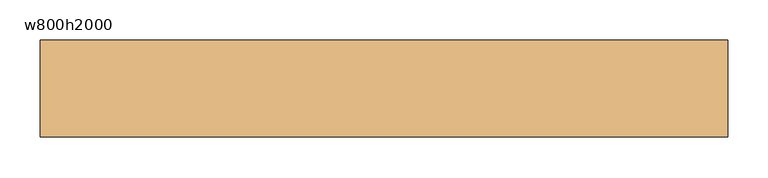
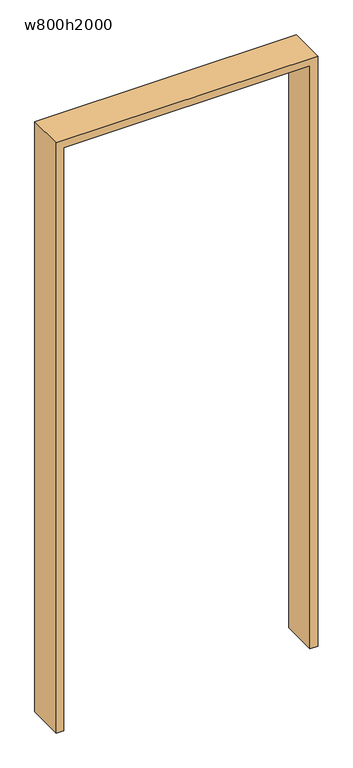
"""IFC4 building model written with IfcOpenShell, lengths in millimetres: door geometry, 開口枠あり : w800h2000."""

from ifc_helpers import new_model, si_unit, frame, origin, place, context, project, spatial, polyline, outline, extrude, source, transform, mapped, element, save


def w800h2000_d76b1b72(model_context):
    return source(origin(), model_context, "Body", "SweptSolid", [
        extrude(outline(polyline([(0.0, -425.0), (0.0, -400.0), (2000.0, -400.0), (2000.0, 400.0), (0.0, 400.0), (0.0, 425.0), (2025.0, 425.0), (2025.0, -425.0), (0.0, -425.0)])), frame((0.0, -60.0, 0.0), z_axis=(0.0, 1.0, 0.0), x_axis=(0.0, 0.0, 1.0)), (0.0, 0.0, 1.0), 120.0),
    ])


if __name__ == "__main__":
    model = new_model("IFC4")
    model_context = context("Model", 3, world=origin())
    ifc_project = project(units=[si_unit("LENGTHUNIT", "METRE", prefix="MILLI")], contexts=[model_context])
    site = spatial("IfcSite", under=ifc_project)
    building = spatial("IfcBuilding", under=site)
    placement = place(None, origin())
    w800h2000_shape = w800h2000_d76b1b72(model_context)
    element("IfcDoor", 1, ObjectType="開口枠あり : w800h2000", at=placement, inside=building, context=model_context, shape_type="MappedRepresentation", body=[
        mapped(w800h2000_shape, transform((0.0, 0.0, 0.0), x_axis=(1.0, 0.0, 0.0), y_axis=(0.0, 1.0, 0.0), z_axis=(0.0, 0.0, 1.0))),
    ])
    save(model, "model.ifc")
